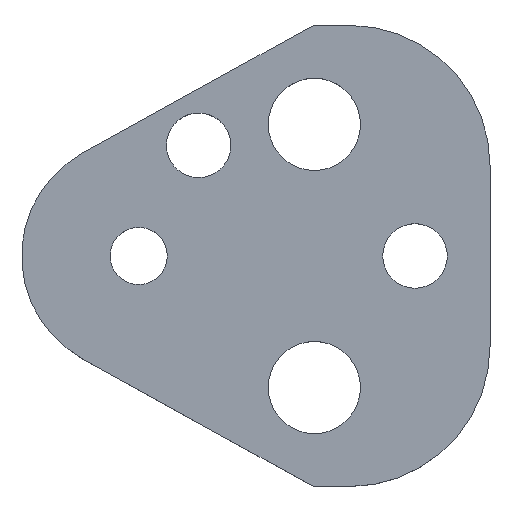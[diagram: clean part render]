
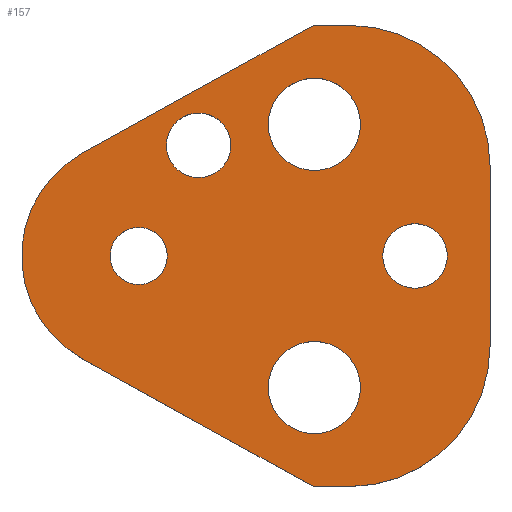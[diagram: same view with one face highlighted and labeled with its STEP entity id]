
A CAD part, top view. The second image highlights one B-rep face of the part: STEP entity #157.
In plain terms, the highlighted planar face has unit normal (0, 0, 1).
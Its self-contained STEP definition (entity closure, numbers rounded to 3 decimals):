
#103=FACE_BOUND('',#207,.T.);
#104=FACE_BOUND('',#208,.T.);
#105=FACE_BOUND('',#209,.T.);
#106=FACE_BOUND('',#210,.T.);
#107=FACE_BOUND('',#211,.T.);
#108=FACE_BOUND('',#212,.T.);
#122=CIRCLE('',#480,15.2);
#124=CIRCLE('',#484,15.2);
#127=CIRCLE('',#490,12.7);
#138=CIRCLE('',#503,5.);
#139=CIRCLE('',#504,5.);
#140=CIRCLE('',#505,3.5);
#141=CIRCLE('',#506,3.5);
#142=CIRCLE('',#507,5.);
#143=CIRCLE('',#508,5.);
#144=CIRCLE('',#509,3.5);
#145=CIRCLE('',#510,3.5);
#146=CIRCLE('',#511,3.1);
#147=CIRCLE('',#512,3.1);
#157=ADVANCED_FACE('',(#103,#104,#105,#106,#107,#108),#174,.T.);
#174=PLANE('',#513);
#207=EDGE_LOOP('',(#273,#274,#275,#276,#277,#278,#279,#280));
#208=EDGE_LOOP('',(#281,#282));
#209=EDGE_LOOP('',(#283,#284));
#210=EDGE_LOOP('',(#285,#286));
#211=EDGE_LOOP('',(#287,#288));
#212=EDGE_LOOP('',(#289,#290));
#273=ORIENTED_EDGE('',*,*,#368,.T.);
#274=ORIENTED_EDGE('',*,*,#372,.T.);
#275=ORIENTED_EDGE('',*,*,#375,.T.);
#276=ORIENTED_EDGE('',*,*,#378,.T.);
#277=ORIENTED_EDGE('',*,*,#381,.T.);
#278=ORIENTED_EDGE('',*,*,#384,.T.);
#279=ORIENTED_EDGE('',*,*,#387,.T.);
#280=ORIENTED_EDGE('',*,*,#390,.T.);
#281=ORIENTED_EDGE('',*,*,#401,.T.);
#282=ORIENTED_EDGE('',*,*,#402,.T.);
#283=ORIENTED_EDGE('',*,*,#403,.T.);
#284=ORIENTED_EDGE('',*,*,#404,.T.);
#285=ORIENTED_EDGE('',*,*,#405,.T.);
#286=ORIENTED_EDGE('',*,*,#406,.T.);
#287=ORIENTED_EDGE('',*,*,#407,.T.);
#288=ORIENTED_EDGE('',*,*,#408,.T.);
#289=ORIENTED_EDGE('',*,*,#409,.T.);
#290=ORIENTED_EDGE('',*,*,#410,.T.);
#332=VERTEX_POINT('',#649);
#333=VERTEX_POINT('',#651);
#336=VERTEX_POINT('',#658);
#338=VERTEX_POINT('',#664);
#340=VERTEX_POINT('',#670);
#342=VERTEX_POINT('',#676);
#344=VERTEX_POINT('',#682);
#346=VERTEX_POINT('',#688);
#357=VERTEX_POINT('',#717);
#358=VERTEX_POINT('',#718);
#359=VERTEX_POINT('',#721);
#360=VERTEX_POINT('',#722);
#361=VERTEX_POINT('',#725);
#362=VERTEX_POINT('',#726);
#363=VERTEX_POINT('',#729);
#364=VERTEX_POINT('',#730);
#365=VERTEX_POINT('',#733);
#366=VERTEX_POINT('',#734);
#368=EDGE_CURVE('',#333,#332,#422,.T.);
#372=EDGE_CURVE('',#332,#336,#426,.T.);
#375=EDGE_CURVE('',#336,#338,#122,.T.);
#378=EDGE_CURVE('',#338,#340,#430,.T.);
#381=EDGE_CURVE('',#340,#342,#124,.T.);
#384=EDGE_CURVE('',#342,#344,#434,.T.);
#387=EDGE_CURVE('',#344,#346,#437,.T.);
#390=EDGE_CURVE('',#346,#333,#127,.T.);
#401=EDGE_CURVE('',#357,#358,#138,.T.);
#402=EDGE_CURVE('',#358,#357,#139,.T.);
#403=EDGE_CURVE('',#359,#360,#140,.T.);
#404=EDGE_CURVE('',#360,#359,#141,.T.);
#405=EDGE_CURVE('',#361,#362,#142,.T.);
#406=EDGE_CURVE('',#362,#361,#143,.T.);
#407=EDGE_CURVE('',#363,#364,#144,.T.);
#408=EDGE_CURVE('',#364,#363,#145,.T.);
#409=EDGE_CURVE('',#365,#366,#146,.T.);
#410=EDGE_CURVE('',#366,#365,#147,.T.);
#422=LINE('',#650,#450);
#426=LINE('',#659,#454);
#430=LINE('',#671,#458);
#434=LINE('',#683,#462);
#437=LINE('',#689,#465);
#450=VECTOR('',#527,1.);
#454=VECTOR('',#533,1.);
#458=VECTOR('',#545,1.);
#462=VECTOR('',#557,1.);
#465=VECTOR('',#562,1.);
#480=AXIS2_PLACEMENT_3D('',#665,#538,#539);
#484=AXIS2_PLACEMENT_3D('',#677,#550,#551);
#490=AXIS2_PLACEMENT_3D('',#693,#568,#569);
#503=AXIS2_PLACEMENT_3D('',#716,#594,#595);
#504=AXIS2_PLACEMENT_3D('',#719,#596,#597);
#505=AXIS2_PLACEMENT_3D('',#720,#598,#599);
#506=AXIS2_PLACEMENT_3D('',#723,#600,#601);
#507=AXIS2_PLACEMENT_3D('',#724,#602,#603);
#508=AXIS2_PLACEMENT_3D('',#727,#604,#605);
#509=AXIS2_PLACEMENT_3D('',#728,#606,#607);
#510=AXIS2_PLACEMENT_3D('',#731,#608,#609);
#511=AXIS2_PLACEMENT_3D('',#732,#610,#611);
#512=AXIS2_PLACEMENT_3D('',#735,#612,#613);
#513=AXIS2_PLACEMENT_3D('',#736,#614,#615);
#527=DIRECTION('',(0.875,-0.485,0.));
#533=DIRECTION('',(1.,0.,0.));
#538=DIRECTION('',(0.,0.,1.));
#539=DIRECTION('',(-0.707,0.707,0.));
#545=DIRECTION('',(0.,1.,0.));
#550=DIRECTION('',(0.,0.,1.));
#551=DIRECTION('',(-0.707,-0.707,0.));
#557=DIRECTION('',(-1.,0.,0.));
#562=DIRECTION('',(-0.875,-0.485,0.));
#568=DIRECTION('',(0.,0.,1.));
#569=DIRECTION('',(1.,0.,0.));
#594=DIRECTION('',(0.,0.,-1.));
#595=DIRECTION('',(-1.,0.,0.));
#596=DIRECTION('',(0.,0.,-1.));
#597=DIRECTION('',(1.,0.,0.));
#598=DIRECTION('',(0.,0.,-1.));
#599=DIRECTION('',(-1.,0.,0.));
#600=DIRECTION('',(0.,0.,-1.));
#601=DIRECTION('',(1.,0.,0.));
#602=DIRECTION('',(0.,0.,-1.));
#603=DIRECTION('',(-1.,0.,0.));
#604=DIRECTION('',(0.,0.,-1.));
#605=DIRECTION('',(1.,0.,0.));
#606=DIRECTION('',(0.,0.,-1.));
#607=DIRECTION('',(-1.,0.,0.));
#608=DIRECTION('',(0.,0.,-1.));
#609=DIRECTION('',(1.,0.,0.));
#610=DIRECTION('',(0.,0.,-1.));
#611=DIRECTION('',(-1.,0.,0.));
#612=DIRECTION('',(0.,0.,-1.));
#613=DIRECTION('',(1.,0.,0.));
#614=DIRECTION('',(0.,0.,1.));
#615=DIRECTION('',(-0.875,0.485,0.));
#649=CARTESIAN_POINT('',(18.905,-25.,5.));
#650=CARTESIAN_POINT('',(18.905,-25.,5.));
#651=CARTESIAN_POINT('',(-6.157,-11.108,5.));
#658=CARTESIAN_POINT('',(22.9,-25.,5.));
#659=CARTESIAN_POINT('',(18.905,-25.,5.));
#664=CARTESIAN_POINT('',(38.1,-9.8,5.));
#665=CARTESIAN_POINT('',(22.9,-9.8,5.));
#670=CARTESIAN_POINT('',(38.1,9.8,5.));
#671=CARTESIAN_POINT('',(38.1,9.8,5.));
#676=CARTESIAN_POINT('',(22.9,25.,5.));
#677=CARTESIAN_POINT('',(22.9,9.8,5.));
#682=CARTESIAN_POINT('',(18.905,25.,5.));
#683=CARTESIAN_POINT('',(18.905,25.,5.));
#688=CARTESIAN_POINT('',(-6.157,11.108,5.));
#689=CARTESIAN_POINT('',(18.905,25.,5.));
#693=CARTESIAN_POINT('',(0.,0.,5.));
#716=CARTESIAN_POINT('',(19.05,-14.27,5.));
#717=CARTESIAN_POINT('',(19.05,-9.27,5.));
#718=CARTESIAN_POINT('',(19.05,-19.27,5.));
#719=CARTESIAN_POINT('',(19.05,-14.27,5.));
#720=CARTESIAN_POINT('',(29.97,0.,5.));
#721=CARTESIAN_POINT('',(29.97,3.5,5.));
#722=CARTESIAN_POINT('',(29.97,-3.5,5.));
#723=CARTESIAN_POINT('',(29.97,0.,5.));
#724=CARTESIAN_POINT('',(19.05,14.27,5.));
#725=CARTESIAN_POINT('',(19.05,19.27,5.));
#726=CARTESIAN_POINT('',(19.05,9.27,5.));
#727=CARTESIAN_POINT('',(19.05,14.27,5.));
#728=CARTESIAN_POINT('',(6.5,12.,5.));
#729=CARTESIAN_POINT('',(6.5,15.5,5.));
#730=CARTESIAN_POINT('',(6.5,8.5,5.));
#731=CARTESIAN_POINT('',(6.5,12.,5.));
#732=CARTESIAN_POINT('',(0.,0.,5.));
#733=CARTESIAN_POINT('',(0.,3.1,5.));
#734=CARTESIAN_POINT('',(0.,-3.1,5.));
#735=CARTESIAN_POINT('',(0.,0.,5.));
#736=CARTESIAN_POINT('',(-6.157,-11.108,5.));
